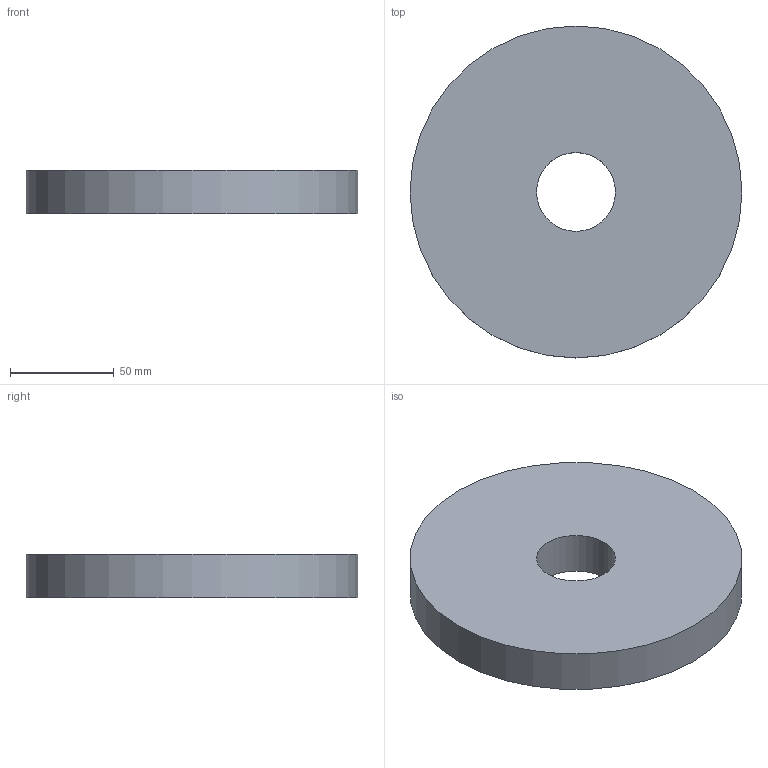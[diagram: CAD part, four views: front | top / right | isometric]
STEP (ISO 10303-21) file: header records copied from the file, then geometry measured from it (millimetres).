
FILE_DESCRIPTION(('Open CASCADE Model'),'2;1');
FILE_NAME('Open CASCADE Shape Model','2026-10-04T02:31:45',('Author'),( 'Open CASCADE'),'Open CASCADE STEP processor 8.0','Open CASCADE 8.0' ,'Unknown');
FILE_SCHEMA(('AUTOMOTIVE_DESIGN { 1 0 10303 214 1 1 1 1 }'));
Length unit declared in the file: millimetre
Products named in the file (1): Open CASCADE STEP translator 8.0 361
Bounding box: 160 x 160 x 21 mm (x, y, z)
Volume: 398413.6 mm3; surface area: 51006.9 mm2
Topology: 1 solids, 1 shells, 4 faces, 6 edges, 4 vertices
Faces by surface type: cylinder 2, plane 2
Full cylindrical faces by diameter (mm): 38 x1, 160 x1
Entity records: 186 total; most frequent: DIRECTION 32, CARTESIAN_POINT 27, ORIENTED_EDGE 12, PCURVE 12, DEFINITIONAL_REPRESENTATION 12, LINE 10, VECTOR 10, AXIS2_PLACEMENT_3D 9
